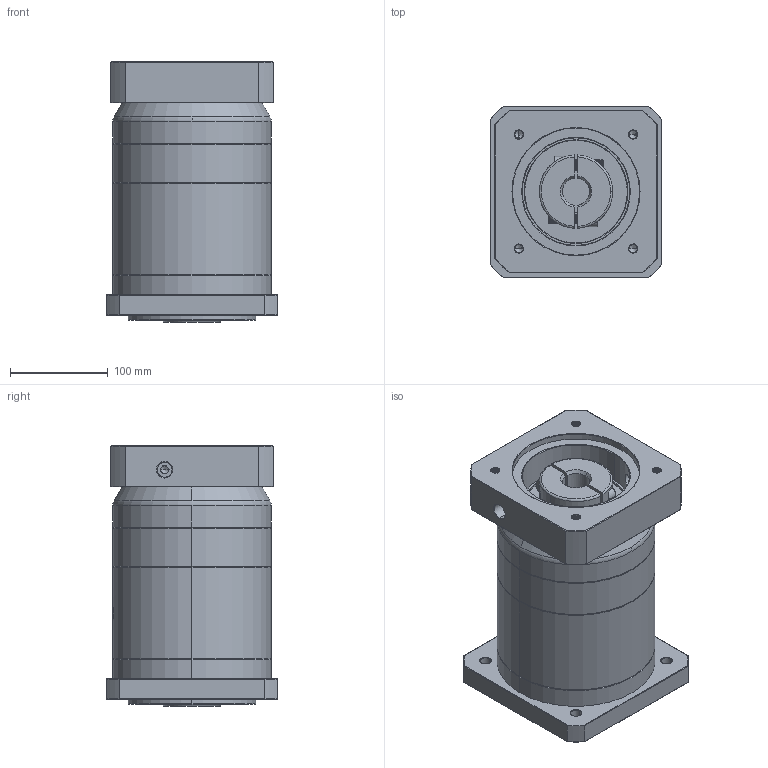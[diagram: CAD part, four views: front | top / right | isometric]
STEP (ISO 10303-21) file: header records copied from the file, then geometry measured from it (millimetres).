
FILE_DESCRIPTION (( 'STEP AP214' ), '1' );
FILE_NAME ('ZF160A-K35-L3-P2-28-130-165-M10.step', '2023-09-03T07:03:47', ( '' ), ( '' ), 'SwSTEP 2.0', 'SolidWorks 2016', '' );
FILE_SCHEMA (( 'AUTOMOTIVE_DESIGN' ));
Length unit declared in the file: millimetre
Products named in the file (1): ZF160A-K35-L3-P2-28-130-165-M10
Bounding box: 175 x 175 x 266.2 mm (x, y, z)
Volume: 5381197.4 mm3; surface area: 360706.7 mm2
Topology: 6 solids, 6 shells, 2150 faces, 5814 edges, 3771 vertices
Faces by surface type: plane 1009, bspline 404, cylinder 394, cone 321, torus 22
Entity records: 119087 total; most frequent: CARTESIAN_POINT 46309, ORIENTED_EDGE 11572, DIRECTION 8478, EDGE_CURVE 5786, VERTEX_POINT 3771, VECTOR 3014, LINE 3014, AXIS2_PLACEMENT_3D 2732
